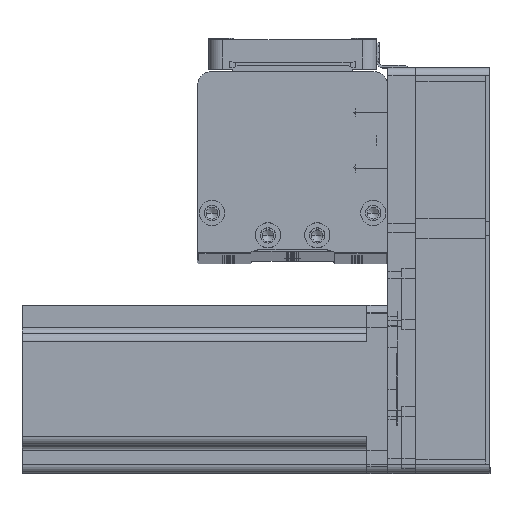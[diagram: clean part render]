
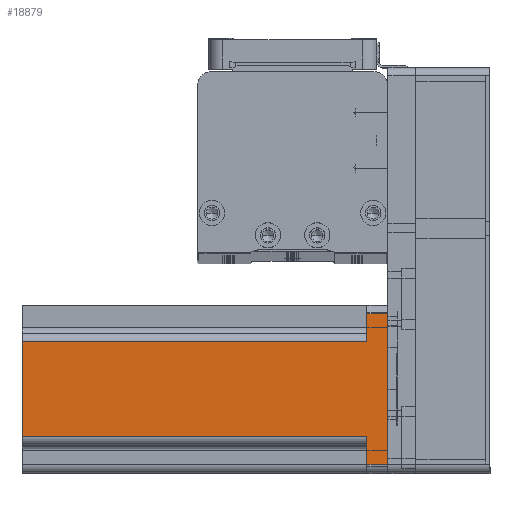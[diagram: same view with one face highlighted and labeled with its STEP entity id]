
A CAD part, top view. The second image highlights one B-rep face of the part: STEP entity #18879.
In plain terms, the highlighted planar face has unit normal (0, 0, 1) as drawn and (0, 1, 0) by its records, which use the part's own axes.
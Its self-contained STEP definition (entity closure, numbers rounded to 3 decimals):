
#1232 = LINE ( 'NONE', #55589, #33780 ) ;
#1282 = VECTOR ( 'NONE', #43349, 1000. ) ;
#1576 = VERTEX_POINT ( 'NONE', #5728 ) ;
#4089 = LINE ( 'NONE', #49433, #49648 ) ;
#5728 = CARTESIAN_POINT ( 'NONE',  ( 17., 30., 7.5 ) ) ;
#6144 = DIRECTION ( 'NONE',  ( 0., -1., 0. ) ) ;
#6518 = CARTESIAN_POINT ( 'NONE',  ( 27., 30., 130.7 ) ) ;
#6684 = VECTOR ( 'NONE', #57211, 1000. ) ;
#6702 = ORIENTED_EDGE ( 'NONE', *, *, #31058, .T. ) ;
#7328 = AXIS2_PLACEMENT_3D ( 'NONE', #32631, #6144, #37053 ) ;
#7389 = LINE ( 'NONE', #35583, #41314 ) ;
#7926 = EDGE_CURVE ( 'NONE', #40624, #39841, #4089, .T. ) ;
#8587 = CARTESIAN_POINT ( 'NONE',  ( -20., 30., 7.5 ) ) ;
#9047 = DIRECTION ( 'NONE',  ( -1., 0., 0. ) ) ;
#9150 = ORIENTED_EDGE ( 'NONE', *, *, #19735, .F. ) ;
#9744 = ORIENTED_EDGE ( 'NONE', *, *, #31311, .T. ) ;
#9884 = ORIENTED_EDGE ( 'NONE', *, *, #30206, .T. ) ;
#10337 = ORIENTED_EDGE ( 'NONE', *, *, #30824, .F. ) ;
#11196 = CARTESIAN_POINT ( 'NONE',  ( 27., 30., 7.5 ) ) ;
#11533 = LINE ( 'NONE', #21337, #57127 ) ;
#12390 = CARTESIAN_POINT ( 'NONE',  ( -17., 30., 130.7 ) ) ;
#14031 = LINE ( 'NONE', #8587, #47889 ) ;
#14294 = DIRECTION ( 'NONE',  ( -1., 0., 0. ) ) ;
#14678 = CARTESIAN_POINT ( 'NONE',  ( 17., 30., 130.7 ) ) ;
#15650 = ORIENTED_EDGE ( 'NONE', *, *, #29877, .T. ) ;
#16864 = VERTEX_POINT ( 'NONE', #35540 ) ;
#17566 = DIRECTION ( 'NONE',  ( 1., 0., 0. ) ) ;
#18143 = CARTESIAN_POINT ( 'NONE',  ( -17., 30., 130.7 ) ) ;
#18528 = CARTESIAN_POINT ( 'NONE',  ( -27., 30., 0. ) ) ;
#18879 = ADVANCED_FACE ( 'NONE', ( #19391 ), #36873, .F. ) ;
#19129 = VECTOR ( 'NONE', #41903, 1000. ) ;
#19391 = FACE_OUTER_BOUND ( 'NONE', #31680, .T. ) ;
#19735 = EDGE_CURVE ( 'NONE', #33184, #21122, #11533, .T. ) ;
#21122 = VERTEX_POINT ( 'NONE', #18143 ) ;
#21337 = CARTESIAN_POINT ( 'NONE',  ( 30., 30., 130.7 ) ) ;
#26458 = CARTESIAN_POINT ( 'NONE',  ( -27., 30., 130.7 ) ) ;
#27891 = ORIENTED_EDGE ( 'NONE', *, *, #7926, .T. ) ;
#29877 = EDGE_CURVE ( 'NONE', #49144, #16864, #14031, .T. ) ;
#30206 = EDGE_CURVE ( 'NONE', #16864, #21122, #36596, .T. ) ;
#30265 = LINE ( 'NONE', #26458, #6684 ) ;
#30572 = EDGE_CURVE ( 'NONE', #33184, #1576, #1232, .T. ) ;
#30824 = EDGE_CURVE ( 'NONE', #54967, #1576, #7389, .T. ) ;
#31058 = EDGE_CURVE ( 'NONE', #54967, #40624, #41262, .T. ) ;
#31311 = EDGE_CURVE ( 'NONE', #39841, #49144, #30265, .T. ) ;
#31447 = ORIENTED_EDGE ( 'NONE', *, *, #30572, .T. ) ;
#31552 = CARTESIAN_POINT ( 'NONE',  ( -27., 30., 7.5 ) ) ;
#31680 = EDGE_LOOP ( 'NONE', ( #15650, #9884, #9150, #31447, #10337, #6702, #27891, #9744 ) ) ;
#32631 = CARTESIAN_POINT ( 'NONE',  ( 30., 30., 130.7 ) ) ;
#33184 = VERTEX_POINT ( 'NONE', #14678 ) ;
#33686 = DIRECTION ( 'NONE',  ( 0., 0., -1. ) ) ;
#33780 = VECTOR ( 'NONE', #33686, 1000. ) ;
#35540 = CARTESIAN_POINT ( 'NONE',  ( -17., 30., 7.5 ) ) ;
#35583 = CARTESIAN_POINT ( 'NONE',  ( 20., 30., 7.5 ) ) ;
#36596 = LINE ( 'NONE', #12390, #1282 ) ;
#36873 = PLANE ( 'NONE',  #7328 ) ;
#37053 = DIRECTION ( 'NONE',  ( 1., 0., 0. ) ) ;
#39841 = VERTEX_POINT ( 'NONE', #18528 ) ;
#40624 = VERTEX_POINT ( 'NONE', #55187 ) ;
#41262 = LINE ( 'NONE', #6518, #19129 ) ;
#41314 = VECTOR ( 'NONE', #9047, 1000. ) ;
#41903 = DIRECTION ( 'NONE',  ( 0., 0., -1. ) ) ;
#43349 = DIRECTION ( 'NONE',  ( 0., 0., 1. ) ) ;
#47889 = VECTOR ( 'NONE', #17566, 1000. ) ;
#49144 = VERTEX_POINT ( 'NONE', #31552 ) ;
#49433 = CARTESIAN_POINT ( 'NONE',  ( 30., 30., 0. ) ) ;
#49648 = VECTOR ( 'NONE', #14294, 1000. ) ;
#54967 = VERTEX_POINT ( 'NONE', #11196 ) ;
#55187 = CARTESIAN_POINT ( 'NONE',  ( 27., 30., 0. ) ) ;
#55589 = CARTESIAN_POINT ( 'NONE',  ( 17., 30., 130.7 ) ) ;
#56563 = DIRECTION ( 'NONE',  ( -1., 0., 0. ) ) ;
#57127 = VECTOR ( 'NONE', #56563, 1000. ) ;
#57211 = DIRECTION ( 'NONE',  ( 0., 0., 1. ) ) ;
